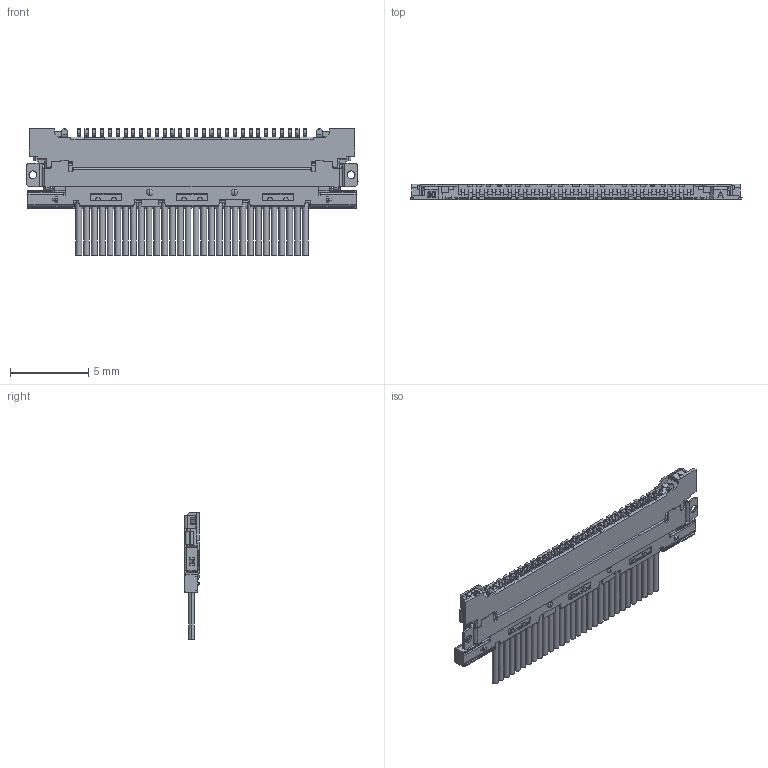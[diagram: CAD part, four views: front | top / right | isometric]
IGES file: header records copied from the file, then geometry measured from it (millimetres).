
Start section: SolidWorks IGES file using analytic representation for surfaces
Global section: file name: C:\3dwork\CAB-VS\20453-030T-x2C+20455-030E-x2C MATING STEP R8R6 ALL.IGS; native system: SolidWorks 2011; preprocessor: SolidWorks 2011; author: kaihatsu-3dcad-2; date: 120124.143016; units: millimetre
Bounding box: 21.25 x 1 x 8.1 mm (x, y, z)
Surface area: 647.9 mm2 (no closed solid volume)
Topology: 0 solids, 0 shells, 3240 faces, 22910 edges, 22901 vertices
Faces by surface type: bspline 2286, revolution 954
